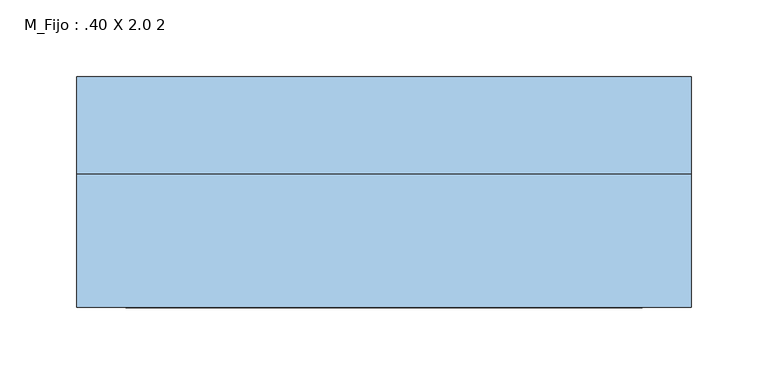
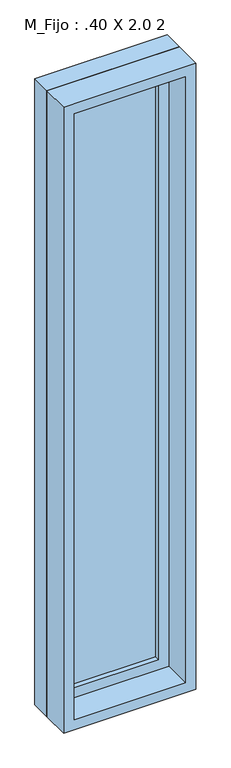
"""IFC4 building model written with IfcOpenShell, lengths in millimetres: window geometry, M_Fijo : .40 X 2.0 2."""

from ifc_helpers import new_model, si_unit, frame, origin, place, context, project, spatial, polyline, outline, extrude, source, transform, mapped, element, save


def m_fijo_40_x_2_0_2_413fcb28(model_context):
    return source(origin(), model_context, "Body", "SweptSolid", [
        extrude(outline(polyline([(-137.0, 53.0), (137.0, 53.0), (137.0, 41.0), (-137.0, 41.0), (-137.0, 53.0)])), frame((0.0, 0.0, 978.0), z_axis=(0.0, 0.0, 1.0), x_axis=(1.0, 0.0, 0.0)), (0.0, 0.0, 1.0), 1874.0),
        extrude(outline(polyline([(2896.0, -181.0), (934.0, -181.0), (934.0, 181.0), (2896.0, 181.0), (2896.0, -181.0)]), holes=[polyline([(2852.0, -137.0), (2852.0, 137.0), (978.0, 137.0), (978.0, -137.0), (2852.0, -137.0)])]), frame((0.0, 25.0, 0.0), z_axis=(0.0, 1.0, 0.0), x_axis=(0.0, 0.0, 1.0)), (0.0, 0.0, 1.0), 44.0),
        extrude(outline(polyline([(2915.0, -200.0), (915.0, -200.0), (915.0, 200.0), (2915.0, 200.0), (2915.0, -200.0)]), holes=[polyline([(2896.0, -181.0), (2896.0, 181.0), (934.0, 181.0), (934.0, -181.0), (2896.0, -181.0)])]), frame((0.0, 25.0, 0.0), z_axis=(0.0, 1.0, 0.0), x_axis=(0.0, 0.0, 1.0)), (0.0, 0.0, 1.0), 63.0),
        extrude(outline(polyline([(2915.0, -200.0), (915.0, -200.0), (915.0, 200.0), (2915.0, 200.0), (2915.0, -200.0)]), holes=[polyline([(2883.0, -168.0), (2883.0, 168.0), (947.0, 168.0), (947.0, -168.0), (2883.0, -168.0)])]), frame((0.0, -62.0, 0.0), z_axis=(0.0, 1.0, 0.0), x_axis=(0.0, 0.0, 1.0)), (0.0, 0.0, 1.0), 87.0),
    ])


if __name__ == "__main__":
    model = new_model("IFC4")
    model_context = context("Model", 3, world=origin())
    ifc_project = project(units=[si_unit("LENGTHUNIT", "METRE", prefix="MILLI")], contexts=[model_context])
    site = spatial("IfcSite", under=ifc_project)
    building = spatial("IfcBuilding", under=site)
    placement = place(None, origin())
    m_fijo_40_x_2_0_2_shape = m_fijo_40_x_2_0_2_413fcb28(model_context)
    element("IfcWindow", 1, ObjectType="M_Fijo : .40 X 2.0 2", at=placement, inside=building, context=model_context, shape_type="MappedRepresentation", body=[
        mapped(m_fijo_40_x_2_0_2_shape, transform((0.0, 0.0, 0.0), x_axis=(1.0, 0.0, 0.0), y_axis=(0.0, 1.0, 0.0), z_axis=(0.0, 0.0, 1.0))),
    ])
    save(model, "model.ifc")
